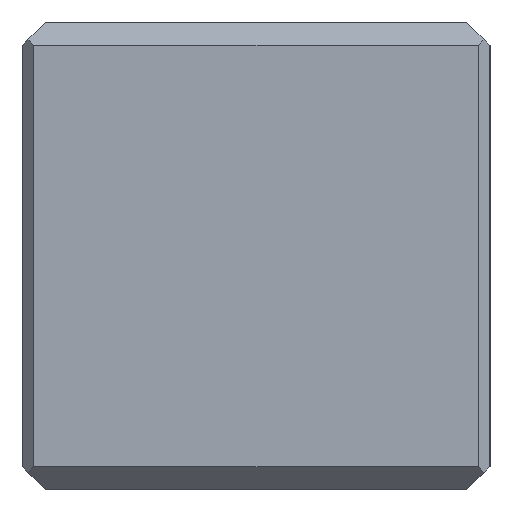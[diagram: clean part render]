
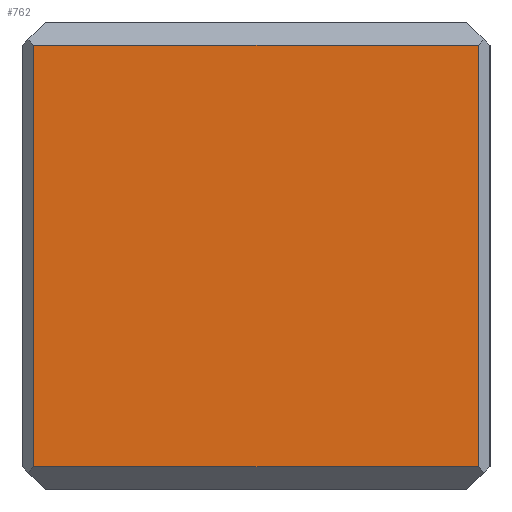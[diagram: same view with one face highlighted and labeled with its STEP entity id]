
A CAD part, left-side view. The second image highlights one B-rep face of the part: STEP entity #762.
In plain terms, the highlighted planar face has unit normal (-1, 0, 0).
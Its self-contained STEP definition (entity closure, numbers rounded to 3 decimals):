
#411=CARTESIAN_POINT('Vertex',(-40.,19.,38.)) ;
#414=CARTESIAN_POINT('Line Origine',(-40.,0.,38.)) ;
#418=CARTESIAN_POINT('Vertex',(-40.,-19.,38.)) ;
#722=CARTESIAN_POINT('Vertex',(-40.,19.,2.)) ;
#725=CARTESIAN_POINT('Line Origine',(-40.,19.,20.)) ;
#739=CARTESIAN_POINT('Axis2P3D Location',(-40.,20.,40.)) ;
#744=CARTESIAN_POINT('Line Origine',(-40.,0.,2.)) ;
#748=CARTESIAN_POINT('Vertex',(-40.,-19.,2.)) ;
#751=CARTESIAN_POINT('Line Origine',(-40.,-19.,20.)) ;
#415=DIRECTION('Vector Direction',(0.,1.,0.)) ;
#726=DIRECTION('Vector Direction',(0.,0.,-1.)) ;
#740=DIRECTION('Axis2P3D Direction',(1.,0.,-0.)) ;
#741=DIRECTION('Axis2P3D XDirection',(0.,1.,0.)) ;
#745=DIRECTION('Vector Direction',(0.,-1.,0.)) ;
#752=DIRECTION('Vector Direction',(0.,0.,1.)) ;
#742=AXIS2_PLACEMENT_3D('Plane Axis2P3D',#739,#740,#741) ;
#757=ORIENTED_EDGE('',*,*,#420,.T.) ;
#758=ORIENTED_EDGE('',*,*,#729,.T.) ;
#759=ORIENTED_EDGE('',*,*,#750,.T.) ;
#760=ORIENTED_EDGE('',*,*,#755,.T.) ;
#416=VECTOR('Line Direction',#415,1.) ;
#727=VECTOR('Line Direction',#726,1.) ;
#746=VECTOR('Line Direction',#745,1.) ;
#753=VECTOR('Line Direction',#752,1.) ;
#762=ADVANCED_FACE('Smusso4',(#761),#743,.F.) ;
#420=EDGE_CURVE('',#419,#412,#417,.T.) ;
#729=EDGE_CURVE('',#412,#723,#728,.T.) ;
#750=EDGE_CURVE('',#723,#749,#747,.T.) ;
#755=EDGE_CURVE('',#749,#419,#754,.T.) ;
#756=EDGE_LOOP('',(#757,#758,#759,#760)) ;
#761=FACE_OUTER_BOUND('',#756,.T.) ;
#417=LINE('Line',#414,#416) ;
#728=LINE('Line',#725,#727) ;
#747=LINE('Line',#744,#746) ;
#754=LINE('Line',#751,#753) ;
#743=PLANE('Plane',#742) ;
#412=VERTEX_POINT('',#411) ;
#419=VERTEX_POINT('',#418) ;
#723=VERTEX_POINT('',#722) ;
#749=VERTEX_POINT('',#748) ;
